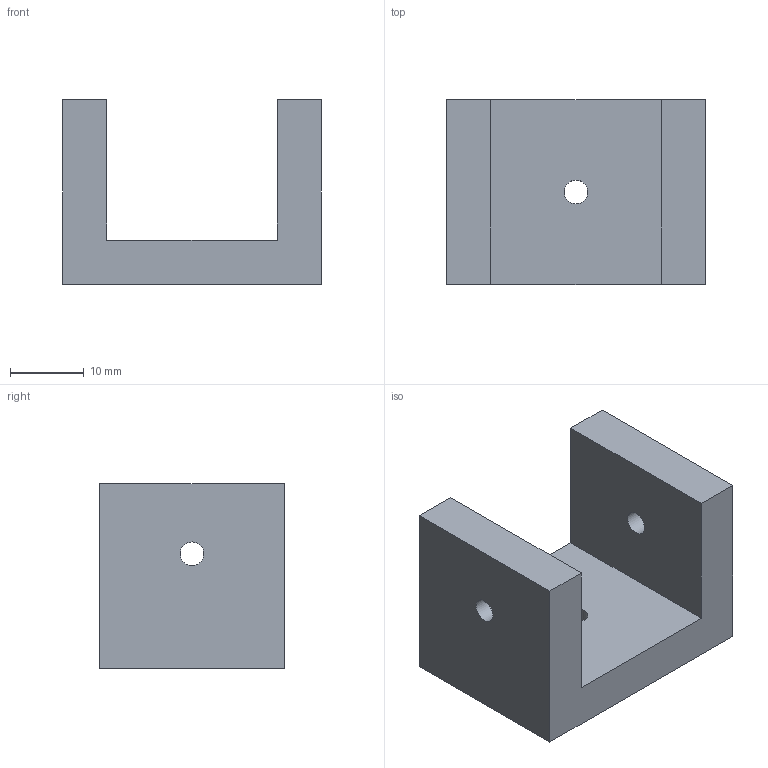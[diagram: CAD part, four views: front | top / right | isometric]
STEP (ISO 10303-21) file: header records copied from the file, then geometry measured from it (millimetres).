
FILE_DESCRIPTION(('Mechanical CAD reference from nasji.com'),'2;1');
FILE_NAME('NASJI.step','',(''),(''),'','NASJI distribution','');
FILE_SCHEMA(('AUTOMOTIVE_DESIGN { 1 0 10303 214 1 1 1 1 }'));
Length unit declared in the file: millimetre
Products named in the file (1): Open CASCADE STEP translator 7.8 144
Bounding box: 35 x 25 x 25 mm (x, y, z)
Volume: 10805.2 mm3; surface area: 4958.7 mm2
Topology: 1 solids, 1 shells, 13 faces, 33 edges, 22 vertices
Faces by surface type: plane 10, cylinder 3
Full cylindrical faces by diameter (mm): 3.2 x3
Entity records: 852 total; most frequent: CARTESIAN_POINT 163, DIRECTION 125, LINE 83, VECTOR 83, ORIENTED_EDGE 66, PCURVE 66, DEFINITIONAL_REPRESENTATION 66, EDGE_CURVE 33
